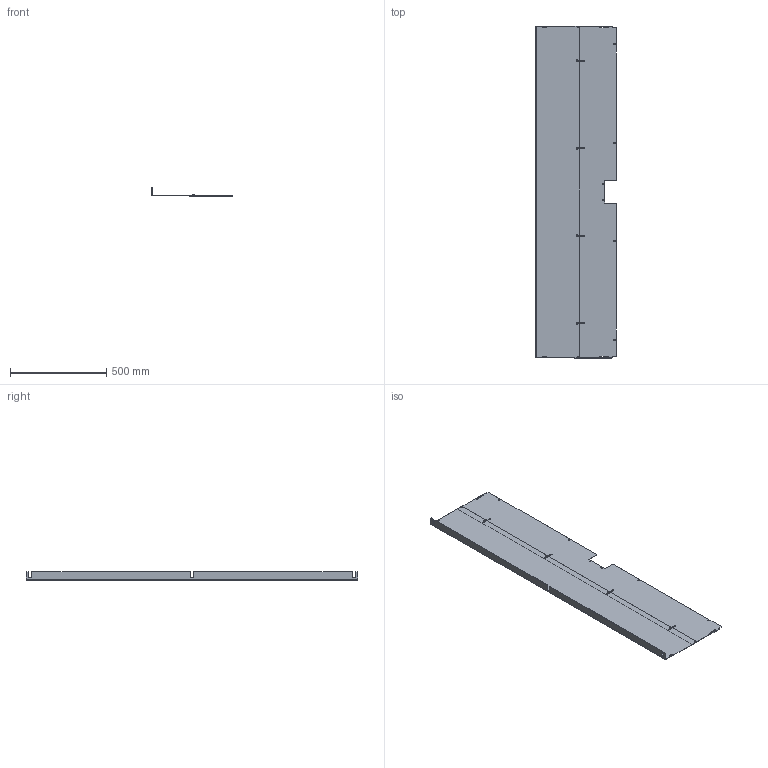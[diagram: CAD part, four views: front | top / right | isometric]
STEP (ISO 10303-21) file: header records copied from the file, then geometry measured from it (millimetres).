
FILE_DESCRIPTION((''),'2;1');
FILE_NAME('MODEL-282_ASM','2016-07-12T',('mikepo'),('SAGINAW CONTROL & ENGINEERING'),'PRO/ENGINEER BY PARAMETRIC TECHNOLOGY CORPORATION, 2012070','PRO/ENGINEER BY PARAMETRIC TECHNOLOGY CORPORATION, 2012070','');
FILE_SCHEMA(('AUTOMOTIVE_DESIGN { 1 0 10303 214 1 1 1 1 }'));
Length unit declared in the file: inch
Products named in the file (4): MODEL-282-FRONT-BARRIER; MODEL-282-REAR-BARRIER; 100032; MODEL-282_ASM
Assembly tree (6 placements, depth 2):
  MODEL-282_ASM
    MODEL-282-FRONT-BARRIER
    MODEL-282-REAR-BARRIER
    100032  x4
Bounding box: 417.58 x 1725.61 x 43.18 mm (x, y, z)
Volume: 1583323.4 mm3; surface area: 1680106.7 mm2
Topology: 6 solids, 6 shells, 186 faces, 478 edges, 308 vertices
Faces by surface type: cylinder 95, plane 67, cone 24
Entity records: 6086 total; most frequent: DIRECTION 850, CARTESIAN_POINT 806, ORIENTED_EDGE 776, PRESENTATION_STYLE_ASSIGNMENT 391, STYLED_ITEM 391, CURVE_STYLE 388, EDGE_CURVE 388, AXIS2_PLACEMENT_3D 311
